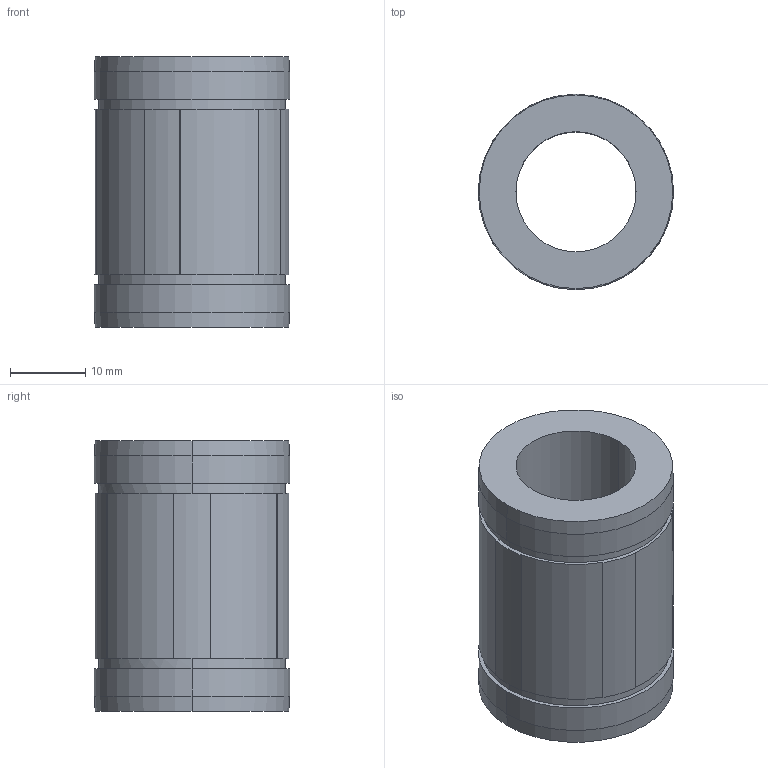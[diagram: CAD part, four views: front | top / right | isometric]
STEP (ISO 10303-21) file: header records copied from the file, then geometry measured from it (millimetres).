
FILE_DESCRIPTION((''),'2;1');
FILE_NAME('C:\Documents and Settings\ｿﾀﾀ蠑ｷ1\ｹﾙﾅﾁ ﾈｭｸ饅\ｺﾎﾇｰﾆﾄﾀﾏ\ﾁｦﾇｰ\LMES__UU\LMES16UU.stp','2005-06-15T14:04:43',('ｿﾀﾀ蠑ｷ1'),(''),'Autodesk Inventor 9','Autodesk Inventor 9','');
FILE_SCHEMA(('AUTOMOTIVE_DESIGN { 1 0 10303 214 1 1 1 1 }'));
Length unit declared in the file: millimetre
Products named in the file (1): LMES__
Bounding box: 26 x 26 x 36 mm (x, y, z)
Volume: 11615.4 mm3; surface area: 5556.5 mm2
Topology: 1 solids, 1 shells, 41 faces, 103 edges, 68 vertices
Faces by surface type: cylinder 21, plane 16, cone 4
Entity records: 1276 total; most frequent: DIRECTION 235, CARTESIAN_POINT 213, ORIENTED_EDGE 206, EDGE_CURVE 103, AXIS2_PLACEMENT_3D 90, VERTEX_POINT 68, VECTOR 55, LINE 55
